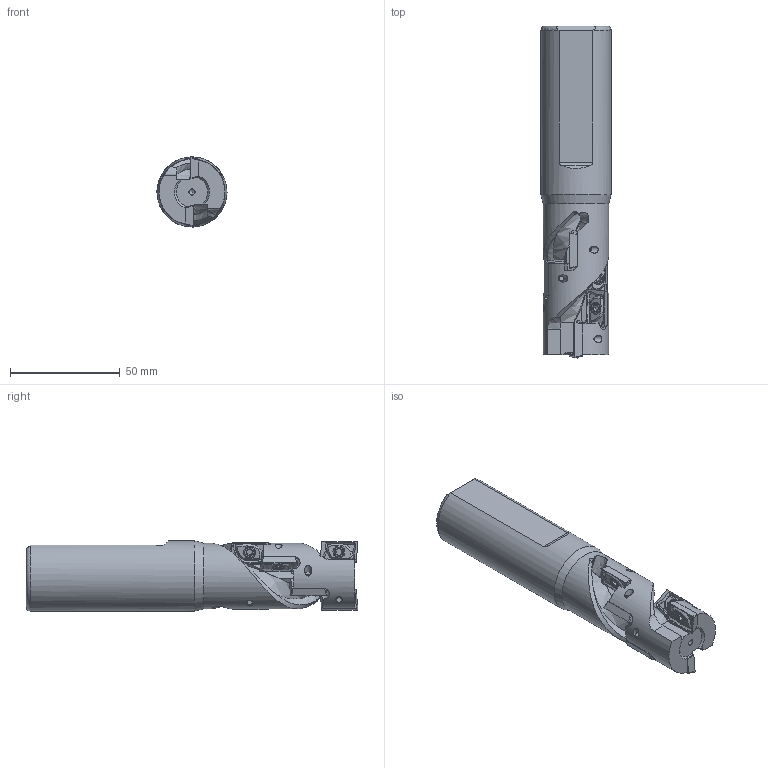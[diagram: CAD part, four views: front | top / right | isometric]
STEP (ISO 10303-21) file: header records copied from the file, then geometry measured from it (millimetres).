
FILE_DESCRIPTION(/* description */ (''),/* implementation_level */ '2;1');
FILE_NAME(/* name */ 'Z:\Проектный отдел\4INVENTOR Модели комплектующих\Комплектующие к ЧПУ\Режущий инструмент\Кукурузы\Фреза EAP400R-С32-32-55M-150-2T-8P\Фреза EAP400R-С32-32-55M-150-2T-8P.stp',/* time_stamp */ '2023-11-29T10:05:00+03:00',/* author */ ('Арина'),/* organization */ (''),/* preprocessor_version */ 'ST-DEVELOPER v18',/* originating_system */ 'Autodesk Inventor 2020',/* authorisation */ '');
FILE_SCHEMA (('AUTOMOTIVE_DESIGN { 1 0 10303 214 3 1 1 }'));
Length unit declared in the file: millimetre
Products named in the file (4): Фреза 400К-С3
2-32-55M-150-2T-8P; Фреза 400К-С3
2-32-55M-150-2T-8P_1; Болт Torx M4 x 10; Напайка
Assembly tree (17 placements, depth 2):
  Фреза 400К-С3
2-32-55M-150-2T-8P
    Фреза 400К-С3
2-32-55M-150-2T-8P_1
    Болт Torx M4 x 10  x8
    Напайка  x8
Bounding box: 32 x 151.41 x 32 mm (x, y, z)
Volume: 98367.6 mm3; surface area: 23742.3 mm2
Topology: 17 solids, 17 shells, 622 faces, 1598 edges, 1035 vertices
Faces by surface type: cylinder 186, plane 162, bspline 145, cone 120, torus 9
Full cylindrical faces by diameter (mm): 2.5 x2, 3.2 x8, 3.242 x8, 4.2 x8, 5.5 x16, 30 x1, 32 x1
Entity records: 8270 total; most frequent: CARTESIAN_POINT 3748, ORIENTED_EDGE 980, DIRECTION 796, EDGE_CURVE 490, VERTEX_POINT 328, AXIS2_PLACEMENT_3D 301, EDGE_LOOP 198, LINE 194
